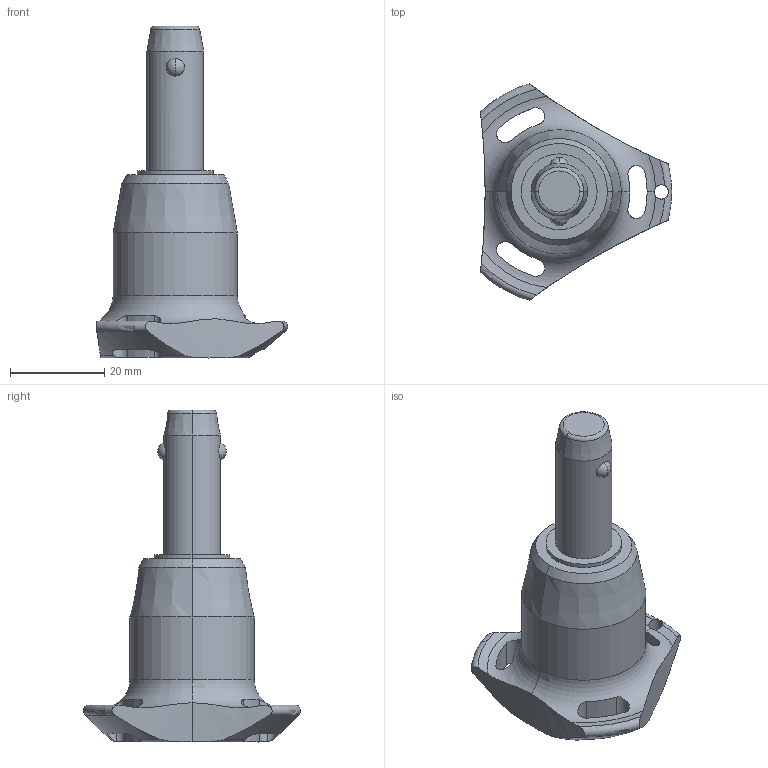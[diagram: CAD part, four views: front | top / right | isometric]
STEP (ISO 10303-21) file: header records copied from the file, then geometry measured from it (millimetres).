
FILE_DESCRIPTION (( 'STEP AP203' ), '1' );
FILE_NAME ('QR1704.M12-020-S.step', '2025-11-12T09:23:04', ( '' ), ( '' ), 'SwSTEP 2.0', 'SolidWorks 2019', '' );
FILE_SCHEMA (( 'CONFIG_CONTROL_DESIGN' ));
Length unit declared in the file: millimetre
Products named in the file (1): QR1704.M12-020-S
Bounding box: 40.5 x 45.88 x 70.3 mm (x, y, z)
Volume: 25397.1 mm3; surface area: 7091.6 mm2
Topology: 1 solids, 1 shells, 65 faces, 178 edges, 113 vertices
Faces by surface type: cylinder 30, cone 14, torus 11, sphere 6, plane 4
Entity records: 2862 total; most frequent: CARTESIAN_POINT 1173, ORIENTED_EDGE 356, DIRECTION 329, EDGE_CURVE 178, AXIS2_PLACEMENT_3D 147, VERTEX_POINT 113, CIRCLE 81, EDGE_LOOP 71
